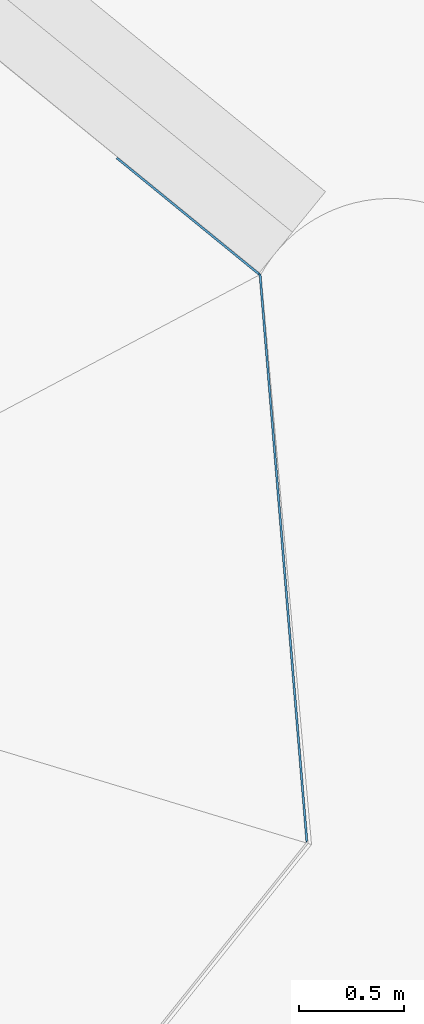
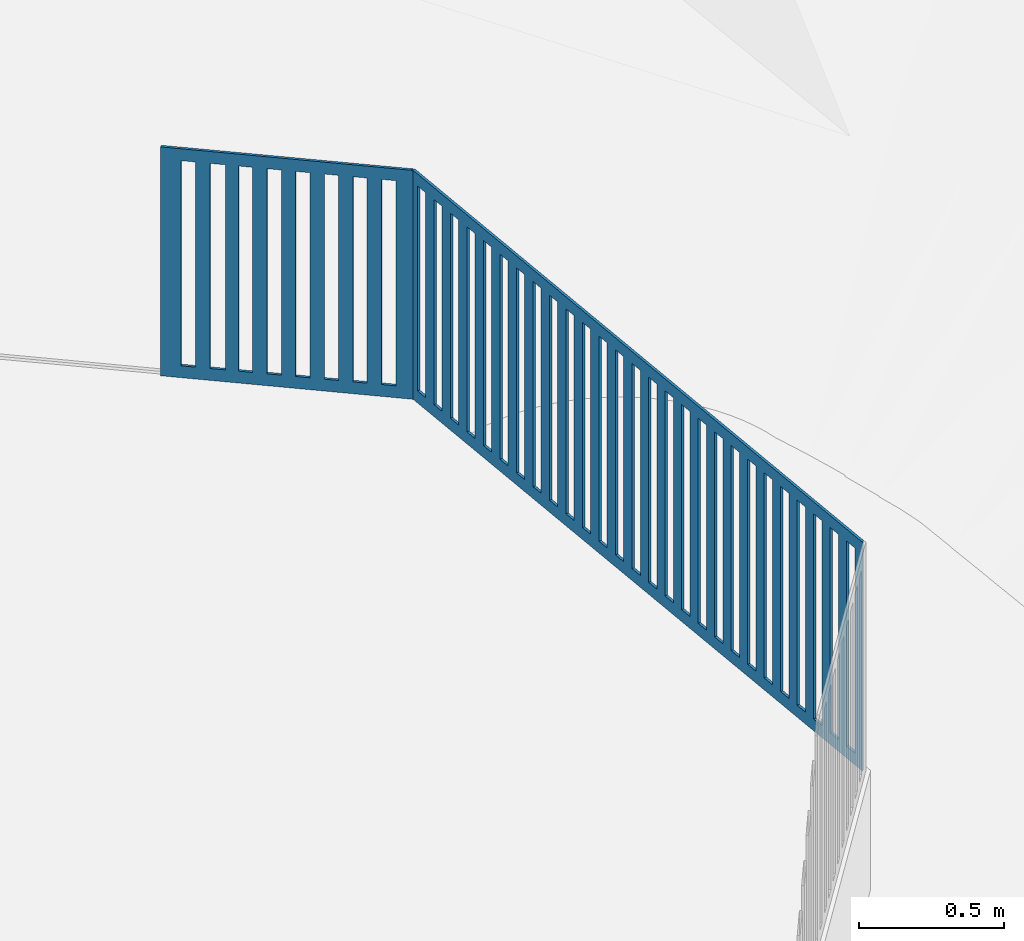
# One storey, part 32 of 75: 2 walls, 35 openings.
"""IFC2X3 building model written with IfcOpenShell, lengths in metres."""

from ifc_helpers import new_model, entity, si_unit, converted_unit, derived_unit, direction, frame, frame_2d, origin, place, context, subcontext, project, spatial, polyline, rectangle, outline, extrude, material, layer, layer_set, layer_usage, type_object, element, save


model = new_model("IFC2X3")

# Units and contexts
model_context = context("Model", 3, precision=1e-05, world=origin(), true_north=direction((6.123031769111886e-17, 1.0)))
body_context = subcontext(model_context, "Body", "Model", "MODEL_VIEW")
ifc_project = project(units=[si_unit("LENGTHUNIT", "METRE"), si_unit("AREAUNIT", "SQUARE_METRE"), si_unit("VOLUMEUNIT", "CUBIC_METRE"), converted_unit("PLANEANGLEUNIT", "DEGREE", entity("IfcRatioMeasure", 0.017453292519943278), si_unit("PLANEANGLEUNIT", "RADIAN"), dimensions=[0, 0, 0, 0, 0, 0, 0]), si_unit("MASSUNIT", "GRAM", prefix="KILO"), derived_unit("MASSDENSITYUNIT", [(si_unit("MASSUNIT", "GRAM", prefix="KILO"), 1), (si_unit("LENGTHUNIT", "METRE"), -3)]), derived_unit("IONCONCENTRATIONUNIT", [(si_unit("MASSUNIT", "GRAM", prefix="KILO"), 1), (si_unit("LENGTHUNIT", "METRE"), -3)]), derived_unit("MOMENTOFINERTIAUNIT", [(si_unit("LENGTHUNIT", "METRE"), 4)]), si_unit("TIMEUNIT", "SECOND"), si_unit("FREQUENCYUNIT", "HERTZ"), si_unit("THERMODYNAMICTEMPERATUREUNIT", "DEGREE_CELSIUS"), derived_unit("THERMALTRANSMITTANCEUNIT", [(si_unit("MASSUNIT", "GRAM", prefix="KILO"), 1), (si_unit("THERMODYNAMICTEMPERATUREUNIT", "KELVIN"), -1), (si_unit("TIMEUNIT", "SECOND"), -3)]), derived_unit("THERMALCONDUCTANCEUNIT", [(si_unit("MASSUNIT", "GRAM", prefix="KILO"), 1), (si_unit("THERMODYNAMICTEMPERATUREUNIT", "KELVIN"), -1), (si_unit("TIMEUNIT", "SECOND"), -3), (si_unit("LENGTHUNIT", "METRE"), 1)]), derived_unit("VOLUMETRICFLOWRATEUNIT", [(si_unit("LENGTHUNIT", "METRE"), 3), (si_unit("TIMEUNIT", "SECOND"), -1)]), derived_unit("MASSFLOWRATEUNIT", [(si_unit("MASSUNIT", "GRAM", prefix="KILO"), 1), (si_unit("TIMEUNIT", "SECOND"), -1)]), derived_unit("ROTATIONALFREQUENCYUNIT", [(si_unit("TIMEUNIT", "SECOND"), -1)]), si_unit("ELECTRICCURRENTUNIT", "AMPERE"), si_unit("ELECTRICVOLTAGEUNIT", "VOLT"), si_unit("POWERUNIT", "WATT"), si_unit("FORCEUNIT", "NEWTON", prefix="KILO"), si_unit("ILLUMINANCEUNIT", "LUX"), si_unit("LUMINOUSFLUXUNIT", "LUMEN"), si_unit("LUMINOUSINTENSITYUNIT", "CANDELA"), derived_unit("USERDEFINED", [(si_unit("MASSUNIT", "GRAM", prefix="KILO"), -1), (si_unit("LENGTHUNIT", "METRE"), -2), (si_unit("TIMEUNIT", "SECOND"), 3), (si_unit("LUMINOUSFLUXUNIT", "LUMEN"), 1)]), derived_unit("USERDEFINED", [(si_unit("MASSUNIT", "GRAM", prefix="KILO"), 1), (si_unit("TIMEUNIT", "SECOND"), -3), (si_unit("LENGTHUNIT", "METRE"), 3), (si_unit("ELECTRICCURRENTUNIT", "AMPERE"), -2)]), derived_unit("SOUNDPOWERUNIT", [(si_unit("MASSUNIT", "GRAM", prefix="KILO"), 1), (si_unit("TIMEUNIT", "SECOND"), -3), (si_unit("LENGTHUNIT", "METRE"), 2)]), derived_unit("SOUNDPRESSUREUNIT", [(si_unit("MASSUNIT", "GRAM", prefix="KILO"), 1), (si_unit("LENGTHUNIT", "METRE"), -1), (si_unit("TIMEUNIT", "SECOND"), -2)]), derived_unit("LINEARVELOCITYUNIT", [(si_unit("LENGTHUNIT", "METRE"), 1), (si_unit("TIMEUNIT", "SECOND"), -1)]), si_unit("PRESSUREUNIT", "PASCAL"), derived_unit("USERDEFINED", [(si_unit("MASSUNIT", "GRAM", prefix="KILO"), 1), (si_unit("LENGTHUNIT", "METRE"), -2), (si_unit("TIMEUNIT", "SECOND"), -2)]), derived_unit("LINEARFORCEUNIT", [(si_unit("MASSUNIT", "GRAM", prefix="KILO"), 1), (si_unit("TIMEUNIT", "SECOND"), -2)]), derived_unit("PLANARFORCEUNIT", [(si_unit("MASSUNIT", "GRAM", prefix="KILO"), 1), (si_unit("LENGTHUNIT", "METRE"), -1), (si_unit("TIMEUNIT", "SECOND"), -2)]), derived_unit("SPECIFICHEATCAPACITYUNIT", [(si_unit("THERMODYNAMICTEMPERATUREUNIT", "KELVIN"), -1), (si_unit("LENGTHUNIT", "METRE"), 2), (si_unit("TIMEUNIT", "SECOND"), -2)]), derived_unit("HEATINGVALUEUNIT", [(si_unit("LENGTHUNIT", "METRE"), 2), (si_unit("TIMEUNIT", "SECOND"), -2)]), derived_unit("VAPORPERMEABILITYUNIT", [(si_unit("LENGTHUNIT", "METRE"), -1), (si_unit("TIMEUNIT", "SECOND"), 1)]), derived_unit("DYNAMICVISCOSITYUNIT", [(si_unit("MASSUNIT", "GRAM", prefix="KILO"), 1), (si_unit("TIMEUNIT", "SECOND"), -1), (si_unit("LENGTHUNIT", "METRE"), -1)]), derived_unit("THERMALEXPANSIONCOEFFICIENTUNIT", [(si_unit("THERMODYNAMICTEMPERATUREUNIT", "KELVIN"), -1)]), derived_unit("MODULUSOFELASTICITYUNIT", [(si_unit("MASSUNIT", "GRAM", prefix="KILO"), 1), (si_unit("LENGTHUNIT", "METRE"), -1), (si_unit("TIMEUNIT", "SECOND"), -2)]), derived_unit("ISOTHERMALMOISTURECAPACITYUNIT", [(si_unit("LENGTHUNIT", "METRE"), 3), (si_unit("MASSUNIT", "GRAM", prefix="KILO"), -1)]), derived_unit("MOISTUREDIFFUSIVITYUNIT", [(si_unit("TIMEUNIT", "SECOND"), -1), (si_unit("LENGTHUNIT", "METRE"), 2)])], contexts=[model_context])

# Site, building, storey
site_placement = place(None, origin())
site = spatial("IfcSite", under=ifc_project, at=site_placement, Name="Default", CompositionType="ELEMENT")
building_placement = place(site_placement, origin())
building = spatial("IfcBuilding", under=site, at=building_placement, Name="Projeto", CompositionType="ELEMENT")
storey_placement = place(building_placement, origin())
storey = spatial("IfcBuildingStorey", under=building, at=storey_placement, Name="Nível 1", CompositionType="ELEMENT", Elevation=0.0)

# Wall, openings
ifc_material = material(Name=".ARQ.PIS - CONTRAPISO.ARMADO")
ifc_layer = layer(ifc_material, 0.01)
ifc_layer_set = layer_set([ifc_layer], Name="Parede básica:15cm 2")
ifc_layer_usage = layer_usage(ifc_layer_set, "AXIS2", "POSITIVE", -0.005000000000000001)
wall_type = type_object("IfcWallType", Name="Parede básica:15cm 2", PredefinedType="STANDARD", material=ifc_layer_set)
wall_1_placement = place(storey_placement, frame((23.530475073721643, 30.549409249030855, -2.1), z_axis=(0.0, 0.0, 1.0), x_axis=(-0.08229549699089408, 0.9966079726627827, 0.0)))
wall_1 = element("IfcWallStandardCase", 1, at=wall_1_placement, inside=storey, type_object=wall_type, material=ifc_layer_usage, Name="Parede básica:15cm 2", ObjectType="Parede básica:15cm 2", context=body_context, shape_type="SweptSolid", body=[
    extrude(outline(polyline([(0.7509147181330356, -0.7871993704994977), (0.7648080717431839, -0.7871993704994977), (0.7551631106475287, -0.7771993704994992), (-1.1355088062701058, 1.1830697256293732), (-1.135377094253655, 1.1685283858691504), (0.7509147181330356, -0.7871993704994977)])), frame((1.6398226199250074, 0.001000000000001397, 0.0), z_axis=(0.0, 0.0, 1.0), x_axis=(0.6942140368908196, 0.7197686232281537, 0.0)), (0.0, 0.0, 1.0), 0.964009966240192),
])
opening_1_placement = place(storey_placement, frame((23.530475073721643, 30.549409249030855, -2.1), z_axis=(0.0, 0.0, 1.0), x_axis=(-0.08229549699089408, 0.9966079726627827, 0.0)))
element("IfcOpeningElement", 2, at=opening_1_placement, cuts=wall_1, Name="Parede básica:15cm 2:1", ObjectType="Opening", context=body_context, shape_type="SweptSolid", body=[
    extrude(rectangle(XDim=0.864009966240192, YDim=0.04999999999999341, at=frame_2d((-2.1562612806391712e-15, -5.551115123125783e-17), x_axis=(0.0, 1.0))), frame((2.673007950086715, -0.004999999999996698, 0.4820049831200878), z_axis=(0.0, 1.0, 0.0), x_axis=(1.0, 0.0, 0.0)), (0.0, 0.0, 1.0), 0.01000000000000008),
])
opening_2_placement = place(storey_placement, frame((23.530475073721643, 30.549409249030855, -2.1), z_axis=(0.0, 0.0, 1.0), x_axis=(-0.08229549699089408, 0.9966079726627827, 0.0)))
element("IfcOpeningElement", 3, at=opening_2_placement, cuts=wall_1, Name="Parede básica:15cm 2:2", ObjectType="Opening", context=body_context, shape_type="SweptSolid", body=[
    extrude(rectangle(XDim=0.864009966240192, YDim=0.04999999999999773, at=frame_2d((2.159730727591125e-15, -5.551115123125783e-17), x_axis=(0.0, 1.0))), frame((2.573007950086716, -0.004999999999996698, 0.4820049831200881), z_axis=(0.0, 1.0, 0.0), x_axis=(1.0, 0.0, 0.0)), (0.0, 0.0, 1.0), 0.01000000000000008),
])
opening_3_placement = place(storey_placement, frame((23.530475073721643, 30.549409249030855, -2.1), z_axis=(0.0, 0.0, 1.0), x_axis=(-0.08229549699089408, 0.9966079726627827, 0.0)))
element("IfcOpeningElement", 4, at=opening_3_placement, cuts=wall_1, Name="Parede básica:15cm 2:3", ObjectType="Opening", context=body_context, shape_type="SweptSolid", body=[
    extrude(rectangle(XDim=0.8640099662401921, YDim=0.04999999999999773, at=frame_2d((0.0, 1.942890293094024e-16), x_axis=(0.0, 1.0))), frame((2.4730079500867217, -0.004999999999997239, 0.48200498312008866), z_axis=(0.0, 1.0, 0.0), x_axis=(1.0, 0.0, 0.0)), (0.0, 0.0, 1.0), 0.01000000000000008),
])
opening_4_placement = place(storey_placement, frame((23.530475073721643, 30.549409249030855, -2.1), z_axis=(0.0, 0.0, 1.0), x_axis=(-0.08229549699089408, 0.9966079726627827, 0.0)))
element("IfcOpeningElement", 5, at=opening_4_placement, cuts=wall_1, Name="Parede básica:15cm 2:4", ObjectType="Opening", context=body_context, shape_type="SweptSolid", body=[
    extrude(rectangle(XDim=0.864009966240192, YDim=0.04999999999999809, at=frame_2d((2.336672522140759e-15, -5.551115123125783e-17), x_axis=(0.0, 1.0))), frame((2.373007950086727, -0.0049999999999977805, 0.48200498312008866), z_axis=(0.0, 1.0, 0.0), x_axis=(1.0, 0.0, 0.0)), (0.0, 0.0, 1.0), 0.01000000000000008),
])
opening_5_placement = place(storey_placement, frame((23.530475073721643, 30.549409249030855, -2.1), z_axis=(0.0, 0.0, 1.0), x_axis=(-0.08229549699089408, 0.9966079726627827, 0.0)))
element("IfcOpeningElement", 6, at=opening_5_placement, cuts=wall_1, Name="Parede básica:15cm 2:5", ObjectType="Opening", context=body_context, shape_type="SweptSolid", body=[
    extrude(rectangle(XDim=0.864009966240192, YDim=0.04999999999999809, at=frame_2d((-1.7867651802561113e-16, -5.551115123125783e-17), x_axis=(0.0, 1.0))), frame((2.2730079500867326, -0.00499999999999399, 0.48200498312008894), z_axis=(0.0, 1.0, 0.0), x_axis=(1.0, 0.0, 0.0)), (0.0, 0.0, 1.0), 0.01000000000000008),
])
opening_6_placement = place(storey_placement, frame((23.530475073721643, 30.549409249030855, -2.1), z_axis=(0.0, 0.0, 1.0), x_axis=(-0.08229549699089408, 0.9966079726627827, 0.0)))
element("IfcOpeningElement", 7, at=opening_6_placement, cuts=wall_1, Name="Parede básica:15cm 2:6", ObjectType="Opening", context=body_context, shape_type="SweptSolid", body=[
    extrude(rectangle(XDim=0.864009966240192, YDim=0.049999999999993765, at=frame_2d((2.338407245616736e-15, -5.551115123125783e-17), x_axis=(0.0, 1.0))), frame((2.173007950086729, -0.004999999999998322, 0.48200498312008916), z_axis=(0.0, 1.0, 0.0), x_axis=(1.0, 0.0, 0.0)), (0.0, 0.0, 1.0), 0.01000000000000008),
])
opening_7_placement = place(storey_placement, frame((23.530475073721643, 30.549409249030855, -2.1), z_axis=(0.0, 0.0, 1.0), x_axis=(-0.08229549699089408, 0.9966079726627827, 0.0)))
element("IfcOpeningElement", 8, at=opening_7_placement, cuts=wall_1, Name="Parede básica:15cm 2:7", ObjectType="Opening", context=body_context, shape_type="SweptSolid", body=[
    extrude(rectangle(XDim=0.8640099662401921, YDim=0.050000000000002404, at=frame_2d((2.336672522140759e-15, 1.942890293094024e-16), x_axis=(0.0, 1.0))), frame((2.0730079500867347, -0.004999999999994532, 0.4820049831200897), z_axis=(0.0, 1.0, 0.0), x_axis=(1.0, 0.0, 0.0)), (0.0, 0.0, 1.0), 0.01000000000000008),
])
opening_8_placement = place(storey_placement, frame((23.530475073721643, 30.549409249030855, -2.1), z_axis=(0.0, 0.0, 1.0), x_axis=(-0.08229549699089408, 0.9966079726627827, 0.0)))
element("IfcOpeningElement", 9, at=opening_8_placement, cuts=wall_1, Name="Parede básica:15cm 2:8", ObjectType="Opening", context=body_context, shape_type="SweptSolid", body=[
    extrude(rectangle(XDim=0.864009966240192, YDim=0.04999999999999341, at=frame_2d((0.0, -5.551115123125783e-17), x_axis=(0.0, 1.0))), frame((1.97300795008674, -0.0049999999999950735, 0.4820049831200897), z_axis=(0.0, 1.0, 0.0), x_axis=(1.0, 0.0, 0.0)), (0.0, 0.0, 1.0), 0.01000000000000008),
])
opening_9_placement = place(storey_placement, frame((23.530475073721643, 30.549409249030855, -2.1), z_axis=(0.0, 0.0, 1.0), x_axis=(-0.08229549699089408, 0.9966079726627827, 0.0)))
element("IfcOpeningElement", 10, at=opening_9_placement, cuts=wall_1, Name="Parede básica:15cm 2:9", ObjectType="Opening", context=body_context, shape_type="SweptSolid", body=[
    extrude(rectangle(XDim=0.864009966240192, YDim=0.04999999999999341, at=frame_2d((0.0, -5.551115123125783e-17), x_axis=(0.0, 1.0))), frame((1.8730079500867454, -0.004999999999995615, 0.48200498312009), z_axis=(0.0, 1.0, 0.0), x_axis=(1.0, 0.0, 0.0)), (0.0, 0.0, 1.0), 0.01000000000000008),
])
opening_10_placement = place(storey_placement, frame((23.530475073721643, 30.549409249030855, -2.1), z_axis=(0.0, 0.0, 1.0), x_axis=(-0.08229549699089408, 0.9966079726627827, 0.0)))
element("IfcOpeningElement", 11, at=opening_10_placement, cuts=wall_1, Name="Parede básica:15cm 2:10", ObjectType="Opening", context=body_context, shape_type="SweptSolid", body=[
    extrude(rectangle(XDim=0.864009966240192, YDim=0.05000000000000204, at=frame_2d((0.0, -5.551115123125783e-17), x_axis=(0.0, 1.0))), frame((1.7730079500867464, -0.004999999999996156, 0.4820049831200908), z_axis=(0.0, 1.0, 0.0), x_axis=(1.0, 0.0, 0.0)), (0.0, 0.0, 1.0), 0.01000000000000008),
])
opening_11_placement = place(storey_placement, frame((23.530475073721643, 30.549409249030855, -2.1), z_axis=(0.0, 0.0, 1.0), x_axis=(-0.08229549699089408, 0.9966079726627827, 0.0)))
element("IfcOpeningElement", 12, at=opening_11_placement, cuts=wall_1, Name="Parede básica:15cm 2:11", ObjectType="Opening", context=body_context, shape_type="SweptSolid", body=[
    extrude(rectangle(XDim=0.864009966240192, YDim=0.04999999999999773, at=frame_2d((0.0, -5.551115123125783e-17), x_axis=(0.0, 1.0))), frame((1.6730079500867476, -0.004999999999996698, 0.4820049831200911), z_axis=(0.0, 1.0, 0.0), x_axis=(1.0, 0.0, 0.0)), (0.0, 0.0, 1.0), 0.01000000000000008),
])
opening_12_placement = place(storey_placement, frame((23.530475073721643, 30.549409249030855, -2.1), z_axis=(0.0, 0.0, 1.0), x_axis=(-0.08229549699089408, 0.9966079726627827, 0.0)))
element("IfcOpeningElement", 13, at=opening_12_placement, cuts=wall_1, Name="Parede básica:15cm 2:12", ObjectType="Opening", context=body_context, shape_type="SweptSolid", body=[
    extrude(rectangle(XDim=0.864009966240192, YDim=0.04999999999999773, at=frame_2d((-2.159730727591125e-15, -5.551115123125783e-17), x_axis=(0.0, 1.0))), frame((1.5730079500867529, -0.004999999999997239, 0.4820049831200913), z_axis=(0.0, 1.0, 0.0), x_axis=(1.0, 0.0, 0.0)), (0.0, 0.0, 1.0), 0.01000000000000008),
])
opening_13_placement = place(storey_placement, frame((23.530475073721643, 30.549409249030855, -2.1), z_axis=(0.0, 0.0, 1.0), x_axis=(-0.08229549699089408, 0.9966079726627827, 0.0)))
element("IfcOpeningElement", 14, at=opening_13_placement, cuts=wall_1, Name="Parede básica:15cm 2:13", ObjectType="Opening", context=body_context, shape_type="SweptSolid", body=[
    extrude(rectangle(XDim=0.8640099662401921, YDim=0.04999999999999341, at=frame_2d((-2.1562612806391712e-15, 1.942890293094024e-16), x_axis=(0.0, 1.0))), frame((1.4730079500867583, -0.0049999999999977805, 0.4820049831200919), z_axis=(0.0, 1.0, 0.0), x_axis=(1.0, 0.0, 0.0)), (0.0, 0.0, 1.0), 0.01000000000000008),
])
opening_14_placement = place(storey_placement, frame((23.530475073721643, 30.549409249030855, -2.1), z_axis=(0.0, 0.0, 1.0), x_axis=(-0.08229549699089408, 0.9966079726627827, 0.0)))
element("IfcOpeningElement", 15, at=opening_14_placement, cuts=wall_1, Name="Parede básica:15cm 2:14", ObjectType="Opening", context=body_context, shape_type="SweptSolid", body=[
    extrude(rectangle(XDim=0.864009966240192, YDim=0.04999999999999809, at=frame_2d((-1.7867651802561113e-16, -5.551115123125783e-17), x_axis=(0.0, 1.0))), frame((1.3730079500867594, -0.00499999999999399, 0.4820049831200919), z_axis=(0.0, 1.0, 0.0), x_axis=(1.0, 0.0, 0.0)), (0.0, 0.0, 1.0), 0.01000000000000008),
])
opening_15_placement = place(storey_placement, frame((23.530475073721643, 30.549409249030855, -2.1), z_axis=(0.0, 0.0, 1.0), x_axis=(-0.08229549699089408, 0.9966079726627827, 0.0)))
element("IfcOpeningElement", 16, at=opening_15_placement, cuts=wall_1, Name="Parede básica:15cm 2:15", ObjectType="Opening", context=body_context, shape_type="SweptSolid", body=[
    extrude(rectangle(XDim=0.864009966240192, YDim=0.050000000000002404, at=frame_2d((2.336672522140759e-15, -5.551115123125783e-17), x_axis=(0.0, 1.0))), frame((1.2730079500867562, -0.004999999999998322, 0.48200498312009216), z_axis=(0.0, 1.0, 0.0), x_axis=(1.0, 0.0, 0.0)), (0.0, 0.0, 1.0), 0.01000000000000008),
])
opening_16_placement = place(storey_placement, frame((23.530475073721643, 30.549409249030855, -2.1), z_axis=(0.0, 0.0, 1.0), x_axis=(-0.08229549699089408, 0.9966079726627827, 0.0)))
element("IfcOpeningElement", 17, at=opening_16_placement, cuts=wall_1, Name="Parede básica:15cm 2:16", ObjectType="Opening", context=body_context, shape_type="SweptSolid", body=[
    extrude(rectangle(XDim=0.864009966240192, YDim=0.04999999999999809, at=frame_2d((-1.7867651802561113e-16, -5.551115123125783e-17), x_axis=(0.0, 1.0))), frame((1.1730079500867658, -0.0049999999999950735, 0.48200498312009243), z_axis=(0.0, 1.0, 0.0), x_axis=(1.0, 0.0, 0.0)), (0.0, 0.0, 1.0), 0.01000000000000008),
])
opening_17_placement = place(storey_placement, frame((23.530475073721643, 30.549409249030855, -2.1), z_axis=(0.0, 0.0, 1.0), x_axis=(-0.08229549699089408, 0.9966079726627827, 0.0)))
element("IfcOpeningElement", 18, at=opening_17_placement, cuts=wall_1, Name="Parede básica:15cm 2:17", ObjectType="Opening", context=body_context, shape_type="SweptSolid", body=[
    extrude(rectangle(XDim=0.8640099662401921, YDim=0.050000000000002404, at=frame_2d((2.336672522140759e-15, 1.942890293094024e-16), x_axis=(0.0, 1.0))), frame((1.073007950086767, -0.004999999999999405, 0.482004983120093), z_axis=(0.0, 1.0, 0.0), x_axis=(1.0, 0.0, 0.0)), (0.0, 0.0, 1.0), 0.01000000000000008),
])
opening_18_placement = place(storey_placement, frame((23.530475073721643, 30.549409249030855, -2.1), z_axis=(0.0, 0.0, 1.0), x_axis=(-0.08229549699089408, 0.9966079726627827, 0.0)))
element("IfcOpeningElement", 19, at=opening_18_placement, cuts=wall_1, Name="Parede básica:15cm 2:18", ObjectType="Opening", context=body_context, shape_type="SweptSolid", body=[
    extrude(rectangle(XDim=0.864009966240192, YDim=0.04999999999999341, at=frame_2d((2.1562612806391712e-15, -5.551115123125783e-17), x_axis=(0.0, 1.0))), frame((0.9730079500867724, -0.004999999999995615, 0.482004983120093), z_axis=(0.0, 1.0, 0.0), x_axis=(1.0, 0.0, 0.0)), (0.0, 0.0, 1.0), 0.01000000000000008),
])
opening_19_placement = place(storey_placement, frame((23.530475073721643, 30.549409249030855, -2.1), z_axis=(0.0, 0.0, 1.0), x_axis=(-0.08229549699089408, 0.9966079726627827, 0.0)))
element("IfcOpeningElement", 20, at=opening_19_placement, cuts=wall_1, Name="Parede básica:15cm 2:19", ObjectType="Opening", context=body_context, shape_type="SweptSolid", body=[
    extrude(rectangle(XDim=0.8640099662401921, YDim=0.04999999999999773, at=frame_2d((0.0, 1.942890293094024e-16), x_axis=(0.0, 1.0))), frame((0.8730079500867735, -0.004999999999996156, 0.48200498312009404), z_axis=(0.0, 1.0, 0.0), x_axis=(1.0, 0.0, 0.0)), (0.0, 0.0, 1.0), 0.01000000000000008),
])
opening_20_placement = place(storey_placement, frame((23.530475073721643, 30.549409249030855, -2.1), z_axis=(0.0, 0.0, 1.0), x_axis=(-0.08229549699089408, 0.9966079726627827, 0.0)))
element("IfcOpeningElement", 21, at=opening_20_placement, cuts=wall_1, Name="Parede básica:15cm 2:20", ObjectType="Opening", context=body_context, shape_type="SweptSolid", body=[
    extrude(rectangle(XDim=0.864009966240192, YDim=0.05000000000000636, at=frame_2d((2.157996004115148e-15, -5.551115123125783e-17), x_axis=(0.0, 1.0))), frame((0.7730079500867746, -0.004999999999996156, 0.48200498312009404), z_axis=(0.0, 1.0, 0.0), x_axis=(1.0, 0.0, 0.0)), (0.0, 0.0, 1.0), 0.01000000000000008),
])
opening_21_placement = place(storey_placement, frame((23.530475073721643, 30.549409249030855, -2.1), z_axis=(0.0, 0.0, 1.0), x_axis=(-0.08229549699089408, 0.9966079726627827, 0.0)))
element("IfcOpeningElement", 22, at=opening_21_placement, cuts=wall_1, Name="Parede básica:15cm 2:21", ObjectType="Opening", context=body_context, shape_type="SweptSolid", body=[
    extrude(rectangle(XDim=0.864009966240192, YDim=0.04999999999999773, at=frame_2d((0.0, -5.551115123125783e-17), x_axis=(0.0, 1.0))), frame((0.6730079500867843, -0.004999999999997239, 0.4820049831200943), z_axis=(0.0, 1.0, 0.0), x_axis=(1.0, 0.0, 0.0)), (0.0, 0.0, 1.0), 0.01000000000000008),
])
opening_22_placement = place(storey_placement, frame((23.530475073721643, 30.549409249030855, -2.1), z_axis=(0.0, 0.0, 1.0), x_axis=(-0.08229549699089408, 0.9966079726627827, 0.0)))
element("IfcOpeningElement", 23, at=opening_22_placement, cuts=wall_1, Name="Parede básica:15cm 2:22", ObjectType="Opening", context=body_context, shape_type="SweptSolid", body=[
    extrude(rectangle(XDim=0.864009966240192, YDim=0.04999999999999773, at=frame_2d((0.0, -5.551115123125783e-17), x_axis=(0.0, 1.0))), frame((0.5730079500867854, -0.004999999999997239, 0.4820049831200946), z_axis=(0.0, 1.0, 0.0), x_axis=(1.0, 0.0, 0.0)), (0.0, 0.0, 1.0), 0.01000000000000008),
])
opening_23_placement = place(storey_placement, frame((23.530475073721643, 30.549409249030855, -2.1), z_axis=(0.0, 0.0, 1.0), x_axis=(-0.08229549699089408, 0.9966079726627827, 0.0)))
element("IfcOpeningElement", 24, at=opening_23_placement, cuts=wall_1, Name="Parede básica:15cm 2:23", ObjectType="Opening", context=body_context, shape_type="SweptSolid", body=[
    extrude(rectangle(XDim=0.8640099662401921, YDim=0.050000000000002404, at=frame_2d((2.336672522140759e-15, 1.942890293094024e-16), x_axis=(0.0, 1.0))), frame((0.47300795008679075, -0.004999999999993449, 0.48200498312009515), z_axis=(0.0, 1.0, 0.0), x_axis=(1.0, 0.0, 0.0)), (0.0, 0.0, 1.0), 0.01000000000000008),
])
opening_24_placement = place(storey_placement, frame((23.530475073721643, 30.549409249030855, -2.1), z_axis=(0.0, 0.0, 1.0), x_axis=(-0.08229549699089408, 0.9966079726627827, 0.0)))
element("IfcOpeningElement", 25, at=opening_24_placement, cuts=wall_1, Name="Parede básica:15cm 2:24", ObjectType="Opening", context=body_context, shape_type="SweptSolid", body=[
    extrude(rectangle(XDim=0.864009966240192, YDim=0.04999999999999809, at=frame_2d((1.7867651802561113e-16, -5.551115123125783e-17), x_axis=(0.0, 1.0))), frame((0.37300795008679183, -0.004999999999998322, 0.48200498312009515), z_axis=(0.0, 1.0, 0.0), x_axis=(1.0, 0.0, 0.0)), (0.0, 0.0, 1.0), 0.01000000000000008),
])
opening_25_placement = place(storey_placement, frame((23.530475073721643, 30.549409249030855, -2.1), z_axis=(0.0, 0.0, 1.0), x_axis=(-0.08229549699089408, 0.9966079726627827, 0.0)))
element("IfcOpeningElement", 26, at=opening_25_placement, cuts=wall_1, Name="Parede básica:15cm 2:25", ObjectType="Opening", context=body_context, shape_type="SweptSolid", body=[
    extrude(rectangle(XDim=0.864009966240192, YDim=0.04999999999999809, at=frame_2d((-1.7867651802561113e-16, -5.551115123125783e-17), x_axis=(0.0, 1.0))), frame((0.27300795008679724, -0.004999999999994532, 0.48200498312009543), z_axis=(0.0, 1.0, 0.0), x_axis=(1.0, 0.0, 0.0)), (0.0, 0.0, 1.0), 0.01000000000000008),
])
opening_26_placement = place(storey_placement, frame((23.530475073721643, 30.549409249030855, -2.1), z_axis=(0.0, 0.0, 1.0), x_axis=(-0.08229549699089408, 0.9966079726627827, 0.0)))
element("IfcOpeningElement", 27, at=opening_26_placement, cuts=wall_1, Name="Parede básica:15cm 2:26", ObjectType="Opening", context=body_context, shape_type="SweptSolid", body=[
    extrude(rectangle(XDim=0.864009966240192, YDim=0.04999999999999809, at=frame_2d((1.7867651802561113e-16, -5.551115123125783e-17), x_axis=(0.0, 1.0))), frame((0.17300795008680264, -0.004999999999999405, 0.48200498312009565), z_axis=(0.0, 1.0, 0.0), x_axis=(1.0, 0.0, 0.0)), (0.0, 0.0, 1.0), 0.01000000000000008),
])
opening_27_placement = place(storey_placement, frame((23.530475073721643, 30.549409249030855, -2.1), z_axis=(0.0, 0.0, 1.0), x_axis=(-0.08229549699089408, 0.9966079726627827, 0.0)))
element("IfcOpeningElement", 28, at=opening_27_placement, cuts=wall_1, Name="Parede básica:15cm 2:27", ObjectType="Opening", context=body_context, shape_type="SweptSolid", body=[
    extrude(rectangle(XDim=0.8640099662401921, YDim=0.050000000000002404, at=frame_2d((-1.7867651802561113e-16, 1.942890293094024e-16), x_axis=(0.0, 1.0))), frame((0.07300795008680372, -0.0049999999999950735, 0.4820049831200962), z_axis=(0.0, 1.0, 0.0), x_axis=(1.0, 0.0, 0.0)), (0.0, 0.0, 1.0), 0.01000000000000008),
])

wall_2_placement = place(storey_placement, frame((23.304525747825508, 33.26710314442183, -2.1000000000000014), z_axis=(0.0, 0.0, 1.0), x_axis=(-0.7744578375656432, 0.6326255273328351, 0.0)))
wall_2 = element("IfcWallStandardCase", 29, at=wall_2_placement, inside=storey, type_object=wall_type, material=ifc_layer_usage, Name="Parede básica:15cm 2", ObjectType="Parede básica:15cm 2", context=body_context, shape_type="SweptSolid", body=[
    extrude(outline(polyline([(-0.005000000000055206, -0.43912887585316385), (0.0049999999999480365, -0.43912887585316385), (0.005000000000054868, 0.4439513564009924), (-0.004999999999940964, 0.4343063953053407), (-0.005000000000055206, -0.43912887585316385)])), frame((0.44395135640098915, 0.0, 0.0), z_axis=(0.0, 0.0, 1.0), x_axis=(0.0, 1.0, 0.0)), (0.0, 0.0, 1.0), 0.9640099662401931),
])
opening_28_placement = place(storey_placement, frame((23.304525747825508, 33.26710314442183, -2.1000000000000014), z_axis=(0.0, 0.0, 1.0), x_axis=(-0.7744578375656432, 0.6326255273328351, 0.0)))
element("IfcOpeningElement", 30, at=opening_28_placement, cuts=wall_2, Name="Parede básica:15cm 2:1", ObjectType="Opening", context=body_context, shape_type="SweptSolid", body=[
    extrude(rectangle(XDim=0.864009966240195, YDim=0.049999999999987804, at=frame_2d((5.551115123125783e-17, -1.6757428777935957e-15), x_axis=(1.0, 0.0))), frame((0.7858851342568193, 0.004999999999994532, 0.4820049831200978), z_axis=(0.0, -1.0, 0.0), x_axis=(0.0, 0.0, -1.0)), (0.0, 0.0, 1.0), 0.009999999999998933),
])
opening_29_placement = place(storey_placement, frame((23.304525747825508, 33.26710314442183, -2.1000000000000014), z_axis=(0.0, 0.0, 1.0), x_axis=(-0.7744578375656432, 0.6326255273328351, 0.0)))
element("IfcOpeningElement", 31, at=opening_29_placement, cuts=wall_2, Name="Parede básica:15cm 2:2", ObjectType="Opening", context=body_context, shape_type="SweptSolid", body=[
    extrude(rectangle(XDim=0.8640099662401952, YDim=0.05508322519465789, at=frame_2d((-8.326672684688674e-17, -3.0513785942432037e-15), x_axis=(1.0, 0.0))), frame((0.6833435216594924, 0.004999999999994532, 0.4820049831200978), z_axis=(0.0, -1.0, 0.0), x_axis=(0.0, 0.0, -1.0)), (0.0, 0.0, 1.0), 0.009999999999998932),
])
opening_30_placement = place(storey_placement, frame((23.304525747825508, 33.26710314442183, -2.1000000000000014), z_axis=(0.0, 0.0, 1.0), x_axis=(-0.7744578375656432, 0.6326255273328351, 0.0)))
element("IfcOpeningElement", 32, at=opening_30_placement, cuts=wall_2, Name="Parede básica:15cm 2:3", ObjectType="Opening", context=body_context, shape_type="SweptSolid", body=[
    extrude(rectangle(XDim=0.8640099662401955, YDim=0.05, at=frame_2d((5.551115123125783e-17, 1.6774776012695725e-15), x_axis=(1.0, 0.0))), frame((0.5858851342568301, 0.004999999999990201, 0.4820049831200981), z_axis=(0.0, -1.0, 0.0), x_axis=(0.0, 0.0, -1.0)), (0.0, 0.0, 1.0), 0.009999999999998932),
])
opening_31_placement = place(storey_placement, frame((23.304525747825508, 33.26710314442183, -2.1000000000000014), z_axis=(0.0, 0.0, 1.0), x_axis=(-0.7744578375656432, 0.6326255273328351, 0.0)))
element("IfcOpeningElement", 33, at=opening_31_placement, cuts=wall_2, Name="Parede básica:15cm 2:4", ObjectType="Opening", context=body_context, shape_type="SweptSolid", body=[
    extrude(rectangle(XDim=0.8640099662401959, YDim=0.049999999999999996, at=frame_2d((-5.551115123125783e-17, -6.0958182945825e-15), x_axis=(1.0, 0.0))), frame((0.4858851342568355, 0.004999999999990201, 0.4820049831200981), z_axis=(0.0, -1.0, 0.0), x_axis=(0.0, 0.0, -1.0)), (0.0, 0.0, 1.0), 0.009999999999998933),
])
opening_32_placement = place(storey_placement, frame((23.304525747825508, 33.26710314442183, -2.1000000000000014), z_axis=(0.0, 0.0, 1.0), x_axis=(-0.7744578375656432, 0.6326255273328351, 0.0)))
element("IfcOpeningElement", 34, at=opening_32_placement, cuts=wall_2, Name="Parede básica:15cm 2:5", ObjectType="Opening", context=body_context, shape_type="SweptSolid", body=[
    extrude(rectangle(XDim=0.8640099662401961, YDim=0.050000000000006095, at=frame_2d((5.551115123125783e-17, 3.3566899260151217e-15), x_axis=(1.0, 0.0))), frame((0.3858851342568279, 0.004999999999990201, 0.4820049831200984), z_axis=(0.0, -1.0, 0.0), x_axis=(0.0, 0.0, -1.0)), (0.0, 0.0, 1.0), 0.009999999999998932),
])
opening_33_placement = place(storey_placement, frame((23.304525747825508, 33.26710314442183, -2.1000000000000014), z_axis=(0.0, 0.0, 1.0), x_axis=(-0.7744578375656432, 0.6326255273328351, 0.0)))
element("IfcOpeningElement", 35, at=opening_33_placement, cuts=wall_2, Name="Parede básica:15cm 2:6", ObjectType="Opening", context=body_context, shape_type="SweptSolid", body=[
    extrude(rectangle(XDim=0.8640099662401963, YDim=0.049999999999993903, at=frame_2d((-5.551115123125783e-17, 0.0), x_axis=(1.0, 0.0))), frame((0.2858851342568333, 0.004999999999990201, 0.4820049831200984), z_axis=(0.0, -1.0, 0.0), x_axis=(0.0, 0.0, -1.0)), (0.0, 0.0, 1.0), 0.009999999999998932),
])
opening_34_placement = place(storey_placement, frame((23.304525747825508, 33.26710314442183, -2.1000000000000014), z_axis=(0.0, 0.0, 1.0), x_axis=(-0.7744578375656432, 0.6326255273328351, 0.0)))
element("IfcOpeningElement", 36, at=opening_34_placement, cuts=wall_2, Name="Parede básica:15cm 2:7", ObjectType="Opening", context=body_context, shape_type="SweptSolid", body=[
    extrude(rectangle(XDim=0.8640099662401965, YDim=0.050000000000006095, at=frame_2d((8.326672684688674e-17, -1.3686968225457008e-15), x_axis=(1.0, 0.0))), frame((0.1858851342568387, 0.004999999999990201, 0.48200498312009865), z_axis=(0.0, -1.0, 0.0), x_axis=(0.0, 0.0, -1.0)), (0.0, 0.0, 1.0), 0.009999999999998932),
])
opening_35_placement = place(storey_placement, frame((23.304525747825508, 33.26710314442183, -2.1000000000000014), z_axis=(0.0, 0.0, 1.0), x_axis=(-0.7744578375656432, 0.6326255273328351, 0.0)))
element("IfcOpeningElement", 37, at=opening_35_placement, cuts=wall_2, Name="Parede básica:15cm 2:8", ObjectType="Opening", context=body_context, shape_type="SweptSolid", body=[
    extrude(rectangle(XDim=0.8640099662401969, YDim=0.049999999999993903, at=frame_2d((-5.551115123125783e-17, -1.3704315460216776e-15), x_axis=(1.0, 0.0))), frame((0.08588513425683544, 0.004999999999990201, 0.48200498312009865), z_axis=(0.0, -1.0, 0.0), x_axis=(0.0, 0.0, -1.0)), (0.0, 0.0, 1.0), 0.009999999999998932),
])

save(model, "model.ifc")
